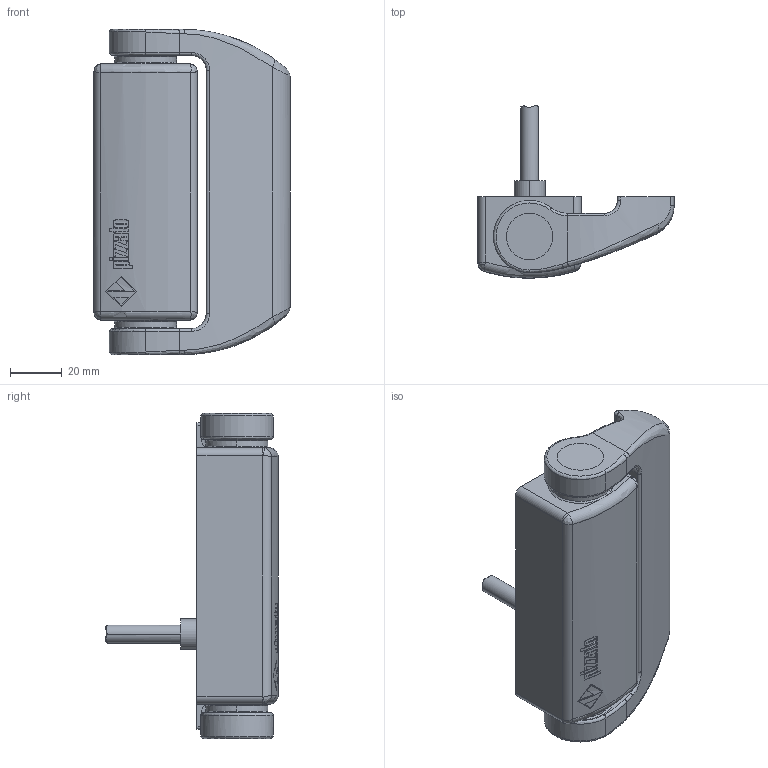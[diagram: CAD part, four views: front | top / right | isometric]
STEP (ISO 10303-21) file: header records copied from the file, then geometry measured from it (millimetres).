
FILE_DESCRIPTION (( 'STEP AP203' ), '1' );
FILE_NAME ('ZF_STEP_HX_Bxxx-xPN_A13.step', '2013-04-20T07:00:00', ( 'Pizzato Elettrica' ), ( '' ), 'SwSTEP 2.0', 'SolidWorks 2011', '' );
FILE_SCHEMA (( 'CONFIG_CONTROL_DESIGN' ));
Length unit declared in the file: millimetre
Products named in the file (4): ZF_STEP_HX_Bxxx-xPN_A13; Cavo ﾘ7; Pizzato_Parte_Mobile_HX_Bxxx; Pizzato_Parte_Fissa_HX_Bxxx_HX Bxxx-x(PQ)x
Assembly tree (3 placements, depth 2):
  ZF_STEP_HX_Bxxx-xPN_A13
    Pizzato_Parte_Mobile_HX_Bxxx
    Pizzato_Parte_Fissa_HX_Bxxx_HX Bxxx-x(PQ)x
    Cavo ﾘ7
Bounding box: 76 x 66.82 x 126 mm (x, y, z)
Volume: 185371.5 mm3; surface area: 36888.1 mm2
Topology: 3 solids, 3 shells, 463 faces, 1182 edges, 742 vertices
Faces by surface type: plane 196, bspline 133, cylinder 90, cone 29, torus 15
Entity records: 22203 total; most frequent: CARTESIAN_POINT 11582, ORIENTED_EDGE 2308, DIRECTION 1772, EDGE_CURVE 1154, VERTEX_POINT 742, AXIS2_PLACEMENT_3D 595, LINE 582, VECTOR 582
